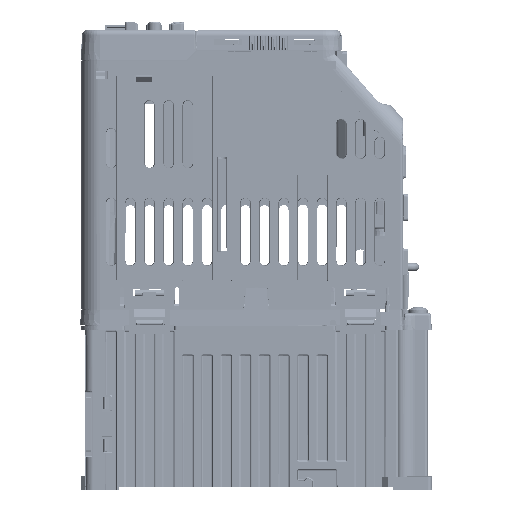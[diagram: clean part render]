
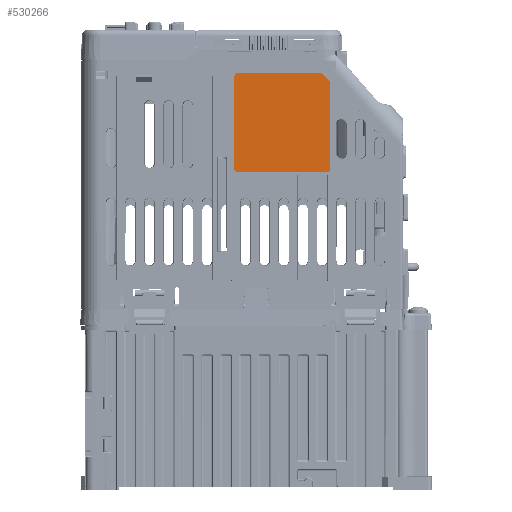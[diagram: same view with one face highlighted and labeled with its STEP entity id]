
A CAD part, left-side view. The second image highlights one B-rep face of the part: STEP entity #530266.
In plain terms, the highlighted planar face has unit normal (-1, 0, 0) as drawn and (0, 0, 1) by its records, which use the part's own axes.
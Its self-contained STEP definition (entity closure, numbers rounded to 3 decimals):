
#530109=DIRECTION('',(-1.,0.,0.));
#530110=VECTOR('',#530109,32.);
#530111=CARTESIAN_POINT('',(33.,-35.,0.));
#530112=LINE('',#530111,#530110);
#530113=CARTESIAN_POINT('',(1.,-34.,0.));
#530114=DIRECTION('',(0.,0.,1.));
#530115=DIRECTION('',(-1.,0.,0.));
#530116=AXIS2_PLACEMENT_3D('',#530113,#530114,#530115);
#530118=DIRECTION('',(0.,1.,0.));
#530119=VECTOR('',#530118,33.);
#530120=CARTESIAN_POINT('',(0.,-34.,0.));
#530121=LINE('',#530120,#530119);
#530122=CARTESIAN_POINT('',(1.,-1.,0.));
#530123=DIRECTION('',(0.,0.,1.));
#530124=DIRECTION('',(0.,1.,0.));
#530125=AXIS2_PLACEMENT_3D('',#530122,#530123,#530124);
#530127=DIRECTION('',(1.,0.,0.));
#530128=VECTOR('',#530127,34.);
#530129=CARTESIAN_POINT('',(1.,0.,0.));
#530130=LINE('',#530129,#530128);
#530131=CARTESIAN_POINT('',(35.,-1.,0.));
#530132=DIRECTION('',(0.,0.,1.));
#530133=DIRECTION('',(1.,0.,0.));
#530134=AXIS2_PLACEMENT_3D('',#530131,#530132,#530133);
#530136=DIRECTION('',(0.,-1.,0.));
#530137=VECTOR('',#530136,31.);
#530138=CARTESIAN_POINT('',(36.,-1.,0.));
#530139=LINE('',#530138,#530137);
#530140=DIRECTION('',(0.707,0.707,0.));
#530141=VECTOR('',#530140,4.243);
#530142=CARTESIAN_POINT('',(33.,-35.,0.));
#530143=LINE('',#530142,#530141);
#530211=CARTESIAN_POINT('',(1.,0.,0.));
#530212=CARTESIAN_POINT('',(0.,-1.,0.));
#530213=VERTEX_POINT('',#530211);
#530214=VERTEX_POINT('',#530212);
#530219=CARTESIAN_POINT('',(36.,-1.,0.));
#530220=CARTESIAN_POINT('',(35.,0.,0.));
#530221=VERTEX_POINT('',#530219);
#530222=VERTEX_POINT('',#530220);
#530227=CARTESIAN_POINT('',(0.,-34.,0.));
#530228=VERTEX_POINT('',#530227);
#530231=CARTESIAN_POINT('',(33.,-35.,0.));
#530232=CARTESIAN_POINT('',(1.,-35.,0.));
#530233=VERTEX_POINT('',#530231);
#530234=VERTEX_POINT('',#530232);
#530239=CARTESIAN_POINT('',(36.,-32.,0.));
#530240=VERTEX_POINT('',#530239);
#530243=CARTESIAN_POINT('',(0.,0.,0.));
#530244=DIRECTION('',(0.,0.,1.));
#530245=DIRECTION('',(1.,0.,0.));
#530246=AXIS2_PLACEMENT_3D('',#530243,#530244,#530245);
#530247=PLANE('',#530246);
#530249=ORIENTED_EDGE('',*,*,#530248,.T.);
#530251=ORIENTED_EDGE('',*,*,#530250,.F.);
#530253=ORIENTED_EDGE('',*,*,#530252,.T.);
#530255=ORIENTED_EDGE('',*,*,#530254,.F.);
#530257=ORIENTED_EDGE('',*,*,#530256,.T.);
#530259=ORIENTED_EDGE('',*,*,#530258,.F.);
#530261=ORIENTED_EDGE('',*,*,#530260,.T.);
#530263=ORIENTED_EDGE('',*,*,#530262,.F.);
#530264=EDGE_LOOP('',(#530249,#530251,#530253,#530255,#530257,#530259,#530261,
#530263));
#530265=FACE_OUTER_BOUND('',#530264,.F.);
#530266=ADVANCED_FACE('',(#530265),#530247,.T.);
#530117=CIRCLE('',#530116,1.);
#530126=CIRCLE('',#530125,1.);
#530135=CIRCLE('',#530134,1.);
#530248=EDGE_CURVE('',#530233,#530234,#530112,.T.);
#530250=EDGE_CURVE('',#530228,#530234,#530117,.T.);
#530252=EDGE_CURVE('',#530228,#530214,#530121,.T.);
#530254=EDGE_CURVE('',#530213,#530214,#530126,.T.);
#530256=EDGE_CURVE('',#530213,#530222,#530130,.T.);
#530258=EDGE_CURVE('',#530221,#530222,#530135,.T.);
#530260=EDGE_CURVE('',#530221,#530240,#530139,.T.);
#530262=EDGE_CURVE('',#530233,#530240,#530143,.T.);
